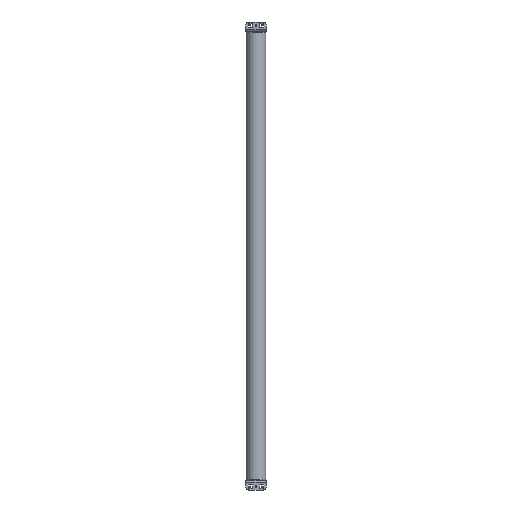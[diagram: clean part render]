
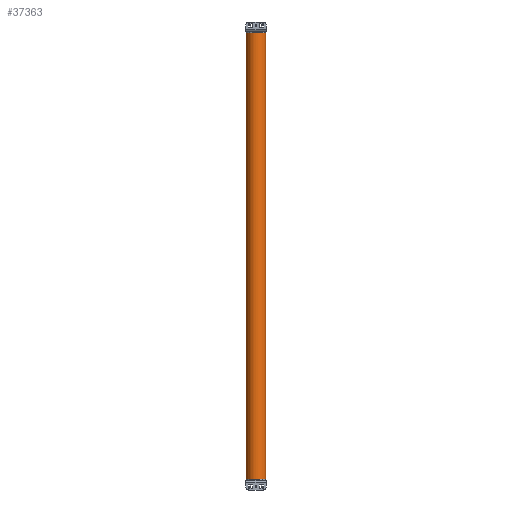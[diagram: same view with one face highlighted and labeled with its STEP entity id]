
A CAD part, front view. The second image highlights one B-rep face of the part: STEP entity #37363.
In plain terms, the highlighted cylindrical face has radius 35 mm (diameter 70 mm), a partial arc.
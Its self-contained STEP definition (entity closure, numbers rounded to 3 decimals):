
#37192=CARTESIAN_POINT('',(0.,0.,0.));
#37193=DIRECTION('',(0.,0.,1.));
#37194=DIRECTION('',(-1.,0.,0.));
#37195=AXIS2_PLACEMENT_3D('',#37192,#37193,#37194);
#37238=CARTESIAN_POINT('',(0.,0.,-1568.5));
#37239=DIRECTION('',(0.,0.,1.));
#37240=DIRECTION('',(-1.,0.,0.));
#37241=AXIS2_PLACEMENT_3D('',#37238,#37239,#37240);
#37246=DIRECTION('',(0.,0.,-1.));
#37247=VECTOR('',#37246,1568.5);
#37248=CARTESIAN_POINT('',(35.,0.,0.));
#37249=LINE('',#37248,#37247);
#37253=DIRECTION('',(0.,0.,-1.));
#37254=VECTOR('',#37253,1568.5);
#37255=CARTESIAN_POINT('',(-35.,0.,0.));
#37256=LINE('',#37255,#37254);
#37264=CARTESIAN_POINT('',(35.,0.,0.));
#37265=CARTESIAN_POINT('',(-35.,0.,0.));
#37266=VERTEX_POINT('',#37264);
#37267=VERTEX_POINT('',#37265);
#37272=CARTESIAN_POINT('',(35.,0.,-1568.5));
#37273=CARTESIAN_POINT('',(-35.,0.,-1568.5));
#37274=VERTEX_POINT('',#37272);
#37275=VERTEX_POINT('',#37273);
#37352=CARTESIAN_POINT('',(0.,0.,0.));
#37353=DIRECTION('',(0.,0.,1.));
#37354=DIRECTION('',(1.,0.,0.));
#37355=AXIS2_PLACEMENT_3D('',#37352,#37353,#37354);
#37356=CYLINDRICAL_SURFACE('',#37355,35.);
#37357=ORIENTED_EDGE('',*,*,#37283,.T.);
#37358=ORIENTED_EDGE('',*,*,#37347,.T.);
#37359=ORIENTED_EDGE('',*,*,#37329,.F.);
#37360=ORIENTED_EDGE('',*,*,#37344,.F.);
#37361=EDGE_LOOP('',(#37357,#37358,#37359,#37360));
#37362=FACE_OUTER_BOUND('',#37361,.F.);
#37196=CIRCLE('',#37195,35.);
#37242=CIRCLE('',#37241,35.);
#37283=EDGE_CURVE('',#37267,#37266,#37196,.T.);
#37329=EDGE_CURVE('',#37275,#37274,#37242,.T.);
#37344=EDGE_CURVE('',#37267,#37275,#37256,.T.);
#37347=EDGE_CURVE('',#37266,#37274,#37249,.T.);
#37363=ADVANCED_FACE('',(#37362),#37356,.T.);
